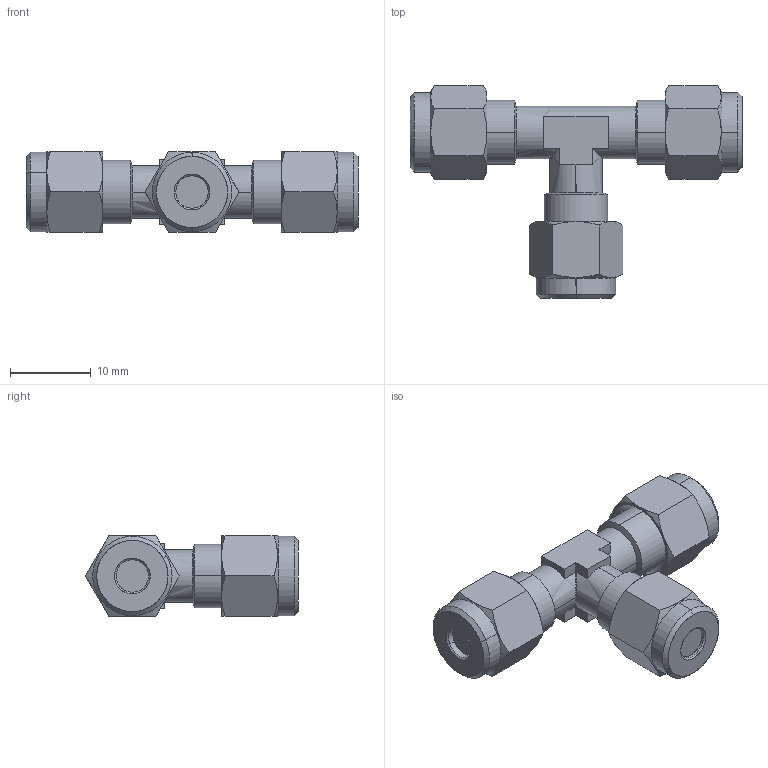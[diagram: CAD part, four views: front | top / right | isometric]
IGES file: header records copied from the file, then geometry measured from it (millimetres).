
Start section: SolidWorks IGES file using analytic representation for surfaces
Global section: file name: K:\Disegni Esecutivi\Serie 10000\Complessivi_10000\10200\10200_iges\1020000001A.IGS; native system: SolidWorks 2008; preprocessor: SolidWorks 2008; author: cad05; date: 081219.144129; units: millimetre
Bounding box: 41 x 26.27 x 10 mm (x, y, z)
Surface area: 2118.2 mm2 (no closed solid volume)
Topology: 0 solids, 0 shells, 118 faces, 1354 edges, 1354 vertices
Faces by surface type: revolution 73, bspline 45
